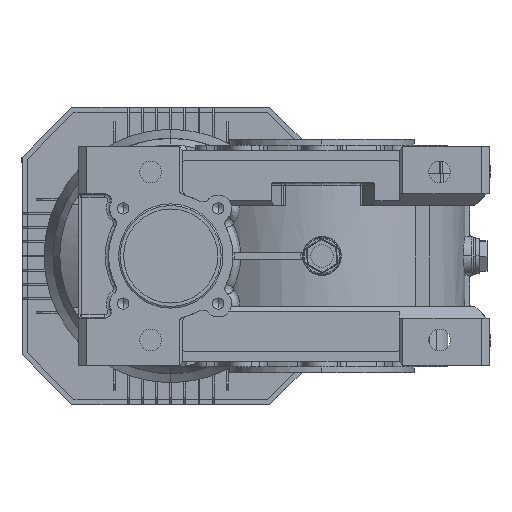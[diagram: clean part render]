
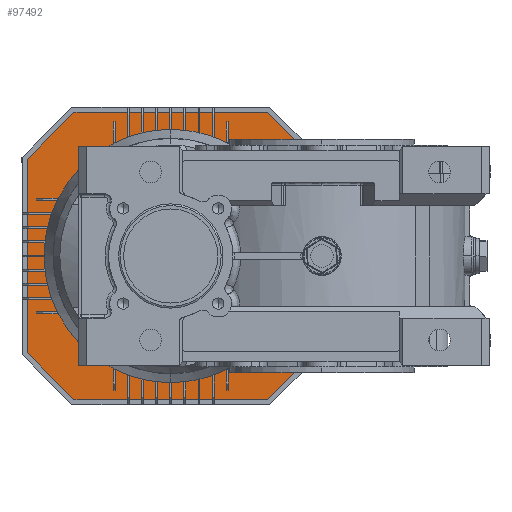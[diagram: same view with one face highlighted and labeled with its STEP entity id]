
A CAD part, left-side view. The second image highlights one B-rep face of the part: STEP entity #97492.
In plain terms, the highlighted planar face has unit normal (-1, 0, 0).
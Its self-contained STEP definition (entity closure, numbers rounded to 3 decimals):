
#89536=CARTESIAN_POINT('',(241.4,0.,-57.2));
#89537=VERTEX_POINT('',#89536);
#89553=CARTESIAN_POINT('',(241.4,0.,57.2));
#89554=VERTEX_POINT('',#89553);
#89561=CARTESIAN_POINT('',(241.4,0.,0.));
#89562=DIRECTION('',(-1.0,0.0,0.0));
#89563=DIRECTION('',(0.0,0.0,-1.0));
#89564=AXIS2_PLACEMENT_3D('',#89561,#89562,#89563);
#89565=CIRCLE('',#89564,57.2);
#89566=EDGE_CURVE('',#89554,#89537,#89565,.T.);
#96007=CARTESIAN_POINT('',(241.4,0.,0.));
#96008=DIRECTION('',(-1.0,0.0,0.0));
#96009=DIRECTION('',(0.0,0.0,-1.0));
#96010=AXIS2_PLACEMENT_3D('',#96007,#96008,#96009);
#96011=CIRCLE('',#96010,57.2);
#96012=EDGE_CURVE('',#89537,#89554,#96011,.T.);
#96030=CARTESIAN_POINT('',(241.4,-57.559,85.5));
#96031=VERTEX_POINT('',#96030);
#96032=CARTESIAN_POINT('',(241.4,57.559,85.5));
#96033=VERTEX_POINT('',#96032);
#96034=CARTESIAN_POINT('',(241.4,-57.559,85.5));
#96035=DIRECTION('',(0.0,1.0,0.0));
#96036=VECTOR('',#96035,115.118);
#96037=LINE('',#96034,#96036);
#96038=EDGE_CURVE('',#96031,#96033,#96037,.T.);
#96070=CARTESIAN_POINT('',(241.4,85.5,57.559));
#96071=VERTEX_POINT('',#96070);
#96072=CARTESIAN_POINT('',(241.4,57.559,85.5));
#96073=DIRECTION('',(0.0,0.707,-0.707));
#96074=VECTOR('',#96073,39.515);
#96075=LINE('',#96072,#96074);
#96076=EDGE_CURVE('',#96033,#96071,#96075,.T.);
#96101=CARTESIAN_POINT('',(241.4,85.5,-57.559));
#96102=VERTEX_POINT('',#96101);
#96103=CARTESIAN_POINT('',(241.4,85.5,57.559));
#96104=DIRECTION('',(0.0,0.0,-1.0));
#96105=VECTOR('',#96104,115.118);
#96106=LINE('',#96103,#96105);
#96107=EDGE_CURVE('',#96071,#96102,#96106,.T.);
#96132=CARTESIAN_POINT('',(241.4,57.559,-85.5));
#96133=VERTEX_POINT('',#96132);
#96134=CARTESIAN_POINT('',(241.4,85.5,-57.559));
#96135=DIRECTION('',(0.0,-0.707,-0.707));
#96136=VECTOR('',#96135,39.515);
#96137=LINE('',#96134,#96136);
#96138=EDGE_CURVE('',#96102,#96133,#96137,.T.);
#96163=CARTESIAN_POINT('',(241.4,-57.559,-85.5));
#96164=VERTEX_POINT('',#96163);
#96165=CARTESIAN_POINT('',(241.4,57.559,-85.5));
#96166=DIRECTION('',(0.0,-1.0,0.0));
#96167=VECTOR('',#96166,115.118);
#96168=LINE('',#96165,#96167);
#96169=EDGE_CURVE('',#96133,#96164,#96168,.T.);
#96194=CARTESIAN_POINT('',(241.4,-85.5,-57.559));
#96195=VERTEX_POINT('',#96194);
#96196=CARTESIAN_POINT('',(241.4,-57.559,-85.5));
#96197=DIRECTION('',(0.0,-0.707,0.707));
#96198=VECTOR('',#96197,39.515);
#96199=LINE('',#96196,#96198);
#96200=EDGE_CURVE('',#96164,#96195,#96199,.T.);
#96225=CARTESIAN_POINT('',(241.4,-85.5,57.559));
#96226=VERTEX_POINT('',#96225);
#96227=CARTESIAN_POINT('',(241.4,-85.5,-57.559));
#96228=DIRECTION('',(0.0,0.0,1.0));
#96229=VECTOR('',#96228,115.118);
#96230=LINE('',#96227,#96229);
#96231=EDGE_CURVE('',#96195,#96226,#96230,.T.);
#96256=CARTESIAN_POINT('',(241.4,-85.5,57.559));
#96257=DIRECTION('',(0.0,0.707,0.707));
#96258=VECTOR('',#96257,39.515);
#96259=LINE('',#96256,#96258);
#96260=EDGE_CURVE('',#96226,#96031,#96259,.T.);
#97473=CARTESIAN_POINT('',(241.4,0.,0.));
#97474=DIRECTION('',(1.0,0.0,0.0));
#97475=DIRECTION('',(0.0,0.0,-1.0));
#97476=AXIS2_PLACEMENT_3D('',#97473,#97474,#97475);
#97477=PLANE('',#97476);
#97478=ORIENTED_EDGE('',*,*,#96038,.T.);
#97479=ORIENTED_EDGE('',*,*,#96076,.T.);
#97480=ORIENTED_EDGE('',*,*,#96107,.T.);
#97481=ORIENTED_EDGE('',*,*,#96138,.T.);
#97482=ORIENTED_EDGE('',*,*,#96169,.T.);
#97483=ORIENTED_EDGE('',*,*,#96200,.T.);
#97484=ORIENTED_EDGE('',*,*,#96231,.T.);
#97485=ORIENTED_EDGE('',*,*,#96260,.T.);
#97486=EDGE_LOOP('',(#97478,#97479,#97480,#97481,#97482,#97483,#97484,#97485));
#97487=FACE_OUTER_BOUND('',#97486,.T.);
#97488=ORIENTED_EDGE('',*,*,#89566,.F.);
#97489=ORIENTED_EDGE('',*,*,#96012,.F.);
#97490=EDGE_LOOP('',(#97488,#97489));
#97491=FACE_BOUND('',#97490,.T.);
#97492=ADVANCED_FACE('',(#97487,#97491),#97477,.F.);
